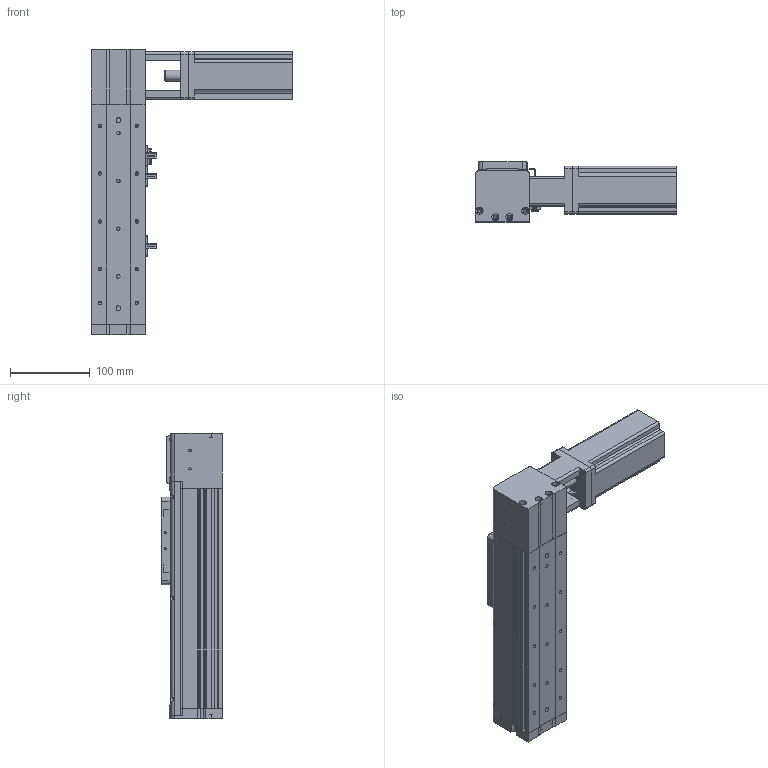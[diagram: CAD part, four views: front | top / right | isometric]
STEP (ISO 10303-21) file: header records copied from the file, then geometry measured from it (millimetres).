
FILE_DESCRIPTION (( 'STEP AP214' ), '1' );
FILE_NAME ('KSD68BS-S100-MRT-CR.STEP', '2019-08-27T06:25:30', ( '微软用户' ), ( '微软中国' ), 'SwSTEP 2.0', 'SolidWorks 2014', '' );
FILE_SCHEMA (( 'AUTOMOTIVE_DESIGN' ));
Length unit declared in the file: millimetre
Products named in the file (13): U倰嫖萇EEㄜSX672; 感应片68宽全封闭; 68单导轨全封闭同步带安装板; 68单导轨全封闭同步带电机座左; 68宽单导轨全封闭同步带端板; KSD68BS 100行程侧板全封闭; 68宽单导轨全封闭丝杆传动安装板1防护罩; 68遵裔啣揤啣1; KSD68BS 100行程盖板全封闭; KSD68BS 100行程底板全封闭; 台达ECMA－C20604AS伺服电机（400W); 100遵鎮湛假蚾啣1; KSD68BS-S100-MRT-CR
Assembly tree (16 placements, depth 2):
  KSD68BS-S100-MRT-CR
    KSD68BS 100行程底板全封闭
    台达ECMA－C20604AS伺服电机（400W)
    U倰嫖萇EEㄜSX672  x3
    感应片68宽全封闭
    68单导轨全封闭同步带安装板
    68单导轨全封闭同步带电机座左
    68宽单导轨全封闭同步带端板
    KSD68BS 100行程侧板全封闭  x2
    68宽单导轨全封闭丝杆传动安装板1防护罩
    68遵裔啣揤啣1  x2
    KSD68BS 100行程盖板全封闭
    100遵鎮湛假蚾啣1
Bounding box: 252.7 x 77 x 358.1 mm (x, y, z)
Volume: 1272209.2 mm3; surface area: 361889.4 mm2
Topology: 17 solids, 17 shells, 1305 faces, 3670 edges, 2358 vertices
Faces by surface type: plane 594, cylinder 579, cone 132
Entity records: 40226 total; most frequent: CARTESIAN_POINT 6767, DIRECTION 6025, ORIENTED_EDGE 5784, EDGE_CURVE 2892, AXIS2_PLACEMENT_3D 2140, VERTEX_POINT 1896, VECTOR 1745, LINE 1745
